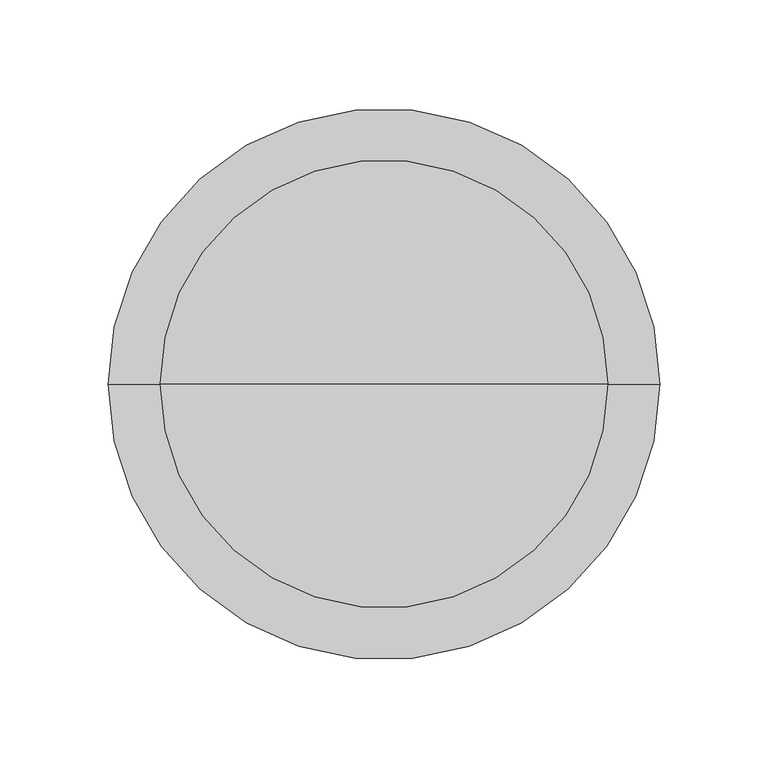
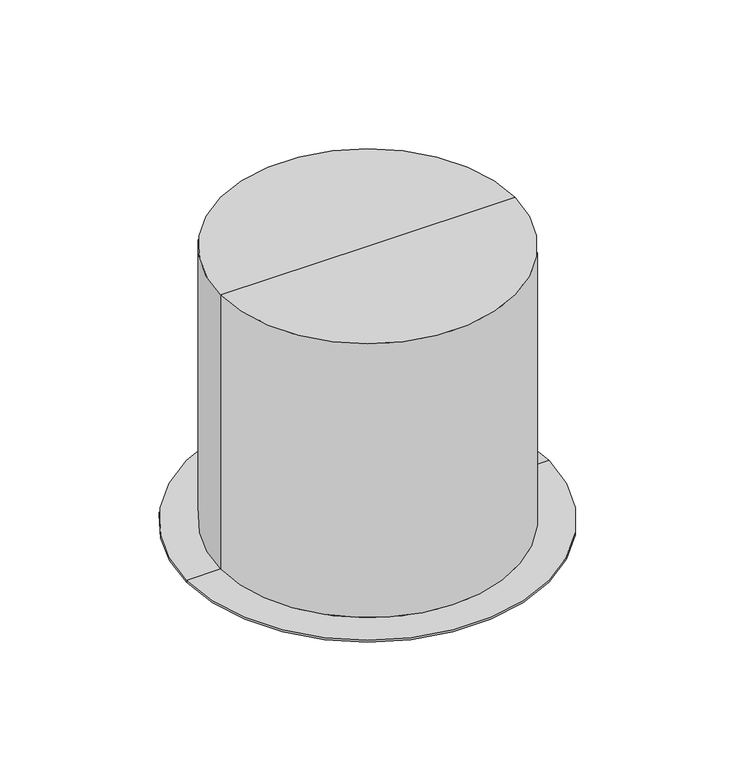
"""IFC4 building model written with IfcOpenShell, lengths in millimetres: light fixture geometry, 8 inch Open Downlight 32W TRT : 8 inch Open Downlight 32W TRT."""

import ifcopenshell
import ifcopenshell.guid

model = None  # the IFC model being written
_history = None  # IfcOwnerHistory: only IFC2X3 demands one
_inside = {}  # id of a spatial element -> (the spatial element, [elements in it])
_under = {}  # id of a project, library or spatial element -> (it, [spatial elements below it])
_declared = {}  # id of a project -> (the project, [libraries it declares])
_typed = {}  # id of a type object -> (the type object, [elements of that type])
_made_of = {}  # id of a material, layer set ... -> (it, [elements and type objects made of it])


def new_model(schema):
    """Start an empty IFC model of exactly this schema.

    Asked for "IFC4X3", IfcOpenShell would pick the latest addendum, in which some entities
    have other attributes; the version numbers below select the first issue.
    IFC2X3 requires an IfcOwnerHistory on every rooted entity: one is made here for all.
    """
    global model, _history
    if schema == "IFC4X3":
        model = ifcopenshell.file(schema_version=(4, 3, 0, 0))
    else:
        model = ifcopenshell.file(schema=schema)
    _inside.clear()
    _under.clear()
    _declared.clear()
    _typed.clear()
    _made_of.clear()
    _history = None
    if model.schema == "IFC2X3":
        org = make("IfcOrganization", Name="unknown")
        user = make(
            "IfcPersonAndOrganization",
            ThePerson=make("IfcPerson", FamilyName="unknown"),
            TheOrganization=org,
        )
        app = make(
            "IfcApplication",
            ApplicationDeveloper=org,
            Version="unknown",
            ApplicationFullName="unknown",
            ApplicationIdentifier="unknown",
        )
        _history = make(
            "IfcOwnerHistory",
            OwningUser=user,
            OwningApplication=app,
            ChangeAction="ADDED",
            CreationDate=0,
        )
    return model


def make(cls, **values):
    """One entity of the class cls with the attributes given. An attribute that is None is left unset."""
    return model.create_entity(
        cls, **{name: value for name, value in values.items() if value is not None}
    )


def rooted(cls, **values):
    """An entity with a GlobalId (a new one), such as an element, a storey or a relation."""
    return make(cls, GlobalId=ifcopenshell.guid.new(), OwnerHistory=_history, **values)


def si_unit(unit_type, name, prefix=None):
    """IfcSIUnit, for example si_unit("LENGTHUNIT", "METRE", prefix="MILLI")."""
    return make("IfcSIUnit", UnitType=unit_type, Prefix=prefix, Name=name)


def assignment(units):
    """IfcUnitAssignment: the units of a project."""
    return None if units is None else make("IfcUnitAssignment", Units=units)


def point(xyz):
    """IfcCartesianPoint."""
    return None if xyz is None else make("IfcCartesianPoint", Coordinates=xyz)


def direction(xyz):
    """IfcDirection."""
    return None if xyz is None else make("IfcDirection", DirectionRatios=xyz)


def frame(location, z_axis=None, x_axis=None):
    """IfcAxis2Placement3D, a coordinate frame: its origin and axes. An axis left out is left unset."""
    return make(
        "IfcAxis2Placement3D",
        Location=point(location),
        Axis=direction(z_axis),
        RefDirection=direction(x_axis),
    )


def origin():
    """The frame at (0, 0, 0) with its axes left unset."""
    return frame((0.0, 0.0, 0.0))


def place(relative_to, where):
    """IfcLocalPlacement: puts the frame where relative to a parent placement (None: the world)."""
    return make(
        "IfcLocalPlacement", PlacementRelTo=relative_to, RelativePlacement=where
    )


def context(
    kind, dimensions, precision=None, world=None, true_north=None, identifier=None
):
    """IfcGeometricRepresentationContext, for example the 3D "Model" context."""
    return make(
        "IfcGeometricRepresentationContext",
        ContextIdentifier=identifier,
        ContextType=kind,
        CoordinateSpaceDimension=dimensions,
        Precision=precision,
        WorldCoordinateSystem=world,
        TrueNorth=true_north,
    )


def project(units=None, contexts=None):
    """IfcProject with its units and contexts."""
    return rooted(
        "IfcProject",
        Name="project",
        RepresentationContexts=contexts,
        UnitsInContext=assignment(units),
    )


def spatial(cls, under=None, at=None, **own):
    """A site, building, storey or space (cls), placed at a placement, below another one or the project."""
    s = rooted(cls, ObjectPlacement=at, **own)
    if under is not None:
        _under.setdefault(under.id(), (under, []))[1].append(s)
    return s


def polyline(points):
    """IfcPolyline through the points."""
    return make("IfcPolyline", Points=[point(p) for p in points])


def circle_curve(where, radius):
    """IfcCircle in the frame where."""
    return make("IfcCircle", Position=where, Radius=radius)


def shape(context_of_items, identifier, shape_type, items):
    """IfcShapeRepresentation: the items that make up one representation, for example the "Body"."""
    return make(
        "IfcShapeRepresentation",
        ContextOfItems=context_of_items,
        RepresentationIdentifier=identifier,
        RepresentationType=shape_type,
        Items=items,
    )


def source(mapping_origin, context_of_items, identifier, shape_type, items):
    """IfcRepresentationMap: a shape defined once, which mapped items show again and again."""
    return make(
        "IfcRepresentationMap",
        MappingOrigin=mapping_origin,
        MappedRepresentation=shape(context_of_items, identifier, shape_type, items),
    )


def transform(
    local_origin,
    x_axis=None,
    y_axis=None,
    z_axis=None,
    scale=None,
    scale2=None,
    scale3=None,
    uniform=True,
):
    """IfcCartesianTransformationOperator3D, or its non-uniform kind. x_axis, y_axis, z_axis: its Axis1, 2, 3."""
    if uniform:
        return make(
            "IfcCartesianTransformationOperator3D",
            Axis1=direction(x_axis),
            Axis2=direction(y_axis),
            LocalOrigin=point(local_origin),
            Scale=scale,
            Axis3=direction(z_axis),
        )
    return make(
        "IfcCartesianTransformationOperator3DnonUniform",
        Axis1=direction(x_axis),
        Axis2=direction(y_axis),
        LocalOrigin=point(local_origin),
        Scale=scale,
        Axis3=direction(z_axis),
        Scale2=scale2,
        Scale3=scale3,
    )


def mapped(mapping_source, mapping_target):
    """IfcMappedItem: shows the shape of a source again, moved by a transform."""
    return make(
        "IfcMappedItem", MappingSource=mapping_source, MappingTarget=mapping_target
    )


def made_of(thing, what):
    """Note that an element or type object is made of a material, layer set ...; save() writes the relation."""
    if what is not None:
        _made_of.setdefault(what.id(), (what, []))[1].append(thing)
    return thing


def element(
    cls,
    number,
    at=None,
    inside=None,
    cuts=None,
    type_object=None,
    material=None,
    context=None,
    identifier="Body",
    shape_type=None,
    held_by="IfcProductDefinitionShape",
    body=None,
    shapes=None,
    **own,
):
    """One element of the class cls, such as IfcWall. Its Tag is "e" and its number.

    at: its placement. inside: the storey or other place that contains it. cuts: it is an
    opening in that element (IfcRelVoidsElement). A single representation is given by context,
    identifier, shape_type and body (its items); several are given by shapes. held_by: the class
    of the entity that holds the representations. save() writes the other relations.
    """
    e = rooted(cls, Tag="e%d" % number, ObjectPlacement=at, **own)
    if body is not None:
        shapes = [shape(context, identifier, shape_type, body)]
    if shapes is not None:
        e.Representation = make(held_by, Representations=shapes)
    if inside is not None:
        _inside.setdefault(inside.id(), (inside, []))[1].append(e)
    if cuts is not None:
        rooted(
            "IfcRelVoidsElement", RelatingBuildingElement=cuts, RelatedOpeningElement=e
        )
    if type_object is not None:
        _typed.setdefault(type_object.id(), (type_object, []))[1].append(e)
    return made_of(e, material)


def aggregate(whole, parts):
    """IfcRelAggregates: a whole, such as a stair, and the parts it consists of."""
    return rooted("IfcRelAggregates", RelatingObject=whole, RelatedObjects=parts)


def save(model, path):
    """Write the relations noted so far, then the file.

    IfcRelAggregates (storeys below a building ...), IfcRelContainedInSpatialStructure (elements
    in a storey), IfcRelDefinesByType, IfcRelAssociatesMaterial and IfcRelDeclares: one each for
    every whole, place, type object, material and project.
    """
    for whole, parts in _under.values():
        aggregate(whole, parts)
    for where, things in _inside.values():
        rooted(
            "IfcRelContainedInSpatialStructure",
            RelatedElements=things,
            RelatingStructure=where,
        )
    for kind, things in _typed.values():
        rooted("IfcRelDefinesByType", RelatedObjects=things, RelatingType=kind)
    for what, things in _made_of.values():
        rooted("IfcRelAssociatesMaterial", RelatedObjects=things, RelatingMaterial=what)
    for by, libraries in _declared.values():
        rooted("IfcRelDeclares", RelatingContext=by, RelatedDefinitions=libraries)
    model.write(path)


def plane_surface(at):
    """IfcPlane: the flat surface through the origin of the frame at, square to its z axis."""
    return make("IfcPlane", Position=at)


def cylinder_surface(at, radius):
    """IfcCylindricalSurface: all points at the distance radius from the z axis of the frame at."""
    return make("IfcCylindricalSurface", Position=at, Radius=radius)


def revolved_surface(curve, axis_point, axis_direction):
    """IfcSurfaceOfRevolution: the curve turned about the line through axis_point along axis_direction."""
    return make(
        "IfcSurfaceOfRevolution",
        SweptCurve=make("IfcArbitraryOpenProfileDef", ProfileType="CURVE", Curve=curve),
        AxisPosition=make("IfcAxis1Placement", Location=point(axis_point), Axis=direction(axis_direction)),
    )


def advanced_brep(points, edges, surfaces, faces):
    """IfcAdvancedBrep: a solid bounded by faces that lie on surfaces and meet in shared edges.

    An edge is (start, end): straight between two places in points (the first is 0);
    or (start, end, curve); or (start, end, curve, False) where it runs against its curve.
    A face is (place in surfaces, loops), or (place, loops, False) where it looks against
    its surface's normal. A loop lists edges by number (the first is 1), with a minus sign
    where the edge is run from its end to its start. The first loop is the outer one.
    """
    corners = [point(p) for p in points]
    vertices = [make("IfcVertexPoint", VertexGeometry=c) for c in corners]
    made = []
    for start, end, *more in edges:
        made.append(
            make(
                "IfcEdgeCurve",
                EdgeStart=vertices[start],
                EdgeEnd=vertices[end],
                EdgeGeometry=more[0] if more else make("IfcPolyline", Points=[corners[start], corners[end]]),
                SameSense=more[1] if len(more) > 1 else True,
            )
        )
    hull = []
    for where, loops, *sense in faces:
        bounds = []
        for j, loop in enumerate(loops):
            ring = [make("IfcOrientedEdge", EdgeElement=made[abs(k) - 1], Orientation=k > 0) for k in loop]
            bounds.append(
                make(
                    "IfcFaceOuterBound" if j == 0 else "IfcFaceBound",
                    Bound=make("IfcEdgeLoop", EdgeList=ring),
                    Orientation=True,
                )
            )
        hull.append(make("IfcAdvancedFace", Bounds=bounds, FaceSurface=surfaces[where], SameSense=sense[0] if sense else True))
    return make("IfcAdvancedBrep", Outer=make("IfcClosedShell", CfsFaces=hull))


def light_fixture_baddad79(model_context):
    return source(origin(), model_context, "Body", "AdvancedBrep", [
        advanced_brep(
        [(0.0, 0.0, 2641.6), (-101.6, 0.0, 2641.6), (101.6, 0.0, 2641.6), (103.1875, 0.0, 2643.1875), (-103.1875, 0.0, 2643.1875), (0.0, 0.0, 2643.1875), (103.1875, 0.0, 2439.9875), (-103.1875, 0.0, 2439.9875), (127.0, 0.0, 2439.9875), (-127.0, 0.0, 2439.9875), (127.0, 0.0, 2438.4), (-127.0, 0.0, 2438.4), (101.6, 0.0, 2438.4), (-101.6, 0.0, 2438.4)],
        [
            (0, 1),
            (1, 2, circle_curve(frame((0.0, 0.0, 2641.6), z_axis=(0.0, 0.0, -1.0), x_axis=(-1.0, 0.0, 0.0)), 101.6)),
            (2, 0),
            (2, 1, circle_curve(frame((0.0, 0.0, 2641.6), z_axis=(0.0, 0.0, -1.0), x_axis=(-1.0, 0.0, 0.0)), 101.6)),
            (3, 4, circle_curve(frame((0.0, 0.0, 2643.1875), z_axis=(0.0, 0.0, 1.0), x_axis=(-1.0, 0.0, 0.0)), 103.1875)),
            (4, 5),
            (5, 3),
            (4, 3, circle_curve(frame((0.0, 0.0, 2643.1875), z_axis=(0.0, 0.0, 1.0), x_axis=(-1.0, 0.0, 0.0)), 103.1875)),
            (6, 7, circle_curve(frame((0.0, 0.0, 2439.9875), z_axis=(0.0, 0.0, 1.0), x_axis=(-1.0, 0.0, 0.0)), 103.1875)),
            (7, 4),
            (3, 6),
            (7, 6, circle_curve(frame((0.0, 0.0, 2439.9875), z_axis=(0.0, 0.0, 1.0), x_axis=(-1.0, 0.0, 0.0)), 103.1875)),
            (8, 9, circle_curve(frame((0.0, 0.0, 2439.9875), z_axis=(0.0, 0.0, 1.0), x_axis=(-1.0, 0.0, 0.0)), 127.0)),
            (9, 7),
            (6, 8),
            (9, 8, circle_curve(frame((0.0, 0.0, 2439.9875), z_axis=(0.0, 0.0, 1.0), x_axis=(-1.0, 0.0, 0.0)), 127.0)),
            (10, 11, circle_curve(frame((0.0, 0.0, 2438.4), z_axis=(0.0, 0.0, 1.0), x_axis=(-1.0, 0.0, 0.0)), 127.0)),
            (11, 9),
            (8, 10),
            (11, 10, circle_curve(frame((0.0, 0.0, 2438.4), z_axis=(0.0, 0.0, 1.0), x_axis=(-1.0, 0.0, 0.0)), 127.0)),
            (12, 13, circle_curve(frame((0.0, 0.0, 2438.4), z_axis=(0.0, 0.0, 1.0), x_axis=(-1.0, 0.0, 0.0)), 101.6)),
            (13, 11),
            (10, 12),
            (13, 12, circle_curve(frame((0.0, 0.0, 2438.4), z_axis=(0.0, 0.0, 1.0), x_axis=(-1.0, 0.0, 0.0)), 101.6)),
            (1, 13),
            (12, 2),
        ],
        [
            plane_surface(frame((0.0, 0.0, 2641.6), z_axis=(0.0, 0.0, -1.0), x_axis=(-1.0, 0.0, 0.0))),
            plane_surface(frame((0.0, 0.0, 2643.1875), z_axis=(0.0, 0.0, 1.0), x_axis=(-1.0, 0.0, 0.0))),
            cylinder_surface(frame((0.0, 0.0, 2578.1), z_axis=(0.0, 0.0, -1.0), x_axis=(-1.0, 0.0, 0.0)), 103.1875),
            plane_surface(frame((0.0, 0.0, 2439.9875), z_axis=(0.0, 0.0, 1.0), x_axis=(-1.0, 0.0, 0.0))),
            cylinder_surface(frame((0.0, 0.0, 2578.1), z_axis=(0.0, 0.0, -1.0), x_axis=(-1.0, 0.0, 0.0)), 127.0),
            plane_surface(frame((0.0, 0.0, 2438.4), z_axis=(0.0, 0.0, -1.0), x_axis=(-1.0, 0.0, 0.0))),
            revolved_surface(polyline([(-101.6, 0.0, 2438.4), (-101.6, 0.0, 2641.6)]), (0.0, 0.0, 2578.1), (0.0, 0.0, -1.0)),
        ],
        [
            (0, [[1, 2, 3]]),
            (0, [[-3, 4, -1]]),
            (1, [[5, 6, 7]]),
            (1, [[8, -7, -6]]),
            (2, [[9, 10, -5, 11]]),
            (2, [[12, -11, -8, -10]]),
            (3, [[13, 14, -9, 15]]),
            (3, [[16, -15, -12, -14]]),
            (4, [[17, 18, -13, 19]]),
            (4, [[20, -19, -16, -18]]),
            (5, [[21, 22, -17, 23]]),
            (5, [[24, -23, -20, -22]]),
            (6, [[-2, 25, -21, 26]]),
            (6, [[-4, -26, -24, -25]]),
        ],
    ),
    ])


if __name__ == "__main__":
    model = new_model("IFC4")
    model_context = context("Model", 3, world=origin())
    ifc_project = project(units=[si_unit("LENGTHUNIT", "METRE", prefix="MILLI")], contexts=[model_context])
    site = spatial("IfcSite", under=ifc_project)
    building = spatial("IfcBuilding", under=site)
    placement = place(None, origin())
    light_fixture_shape = light_fixture_baddad79(model_context)
    element("IfcLightFixture", 1, ObjectType="8 inch Open Downlight 32W TRT : 8 inch Open Downlight 32W TRT", at=placement, inside=building, context=model_context, shape_type="MappedRepresentation", body=[
        mapped(light_fixture_shape, transform((0.0, 0.0, 0.0), x_axis=(1.0, 0.0, 0.0), y_axis=(0.0, 1.0, 0.0), z_axis=(0.0, 0.0, 1.0))),
    ])
    save(model, "model.ifc")
